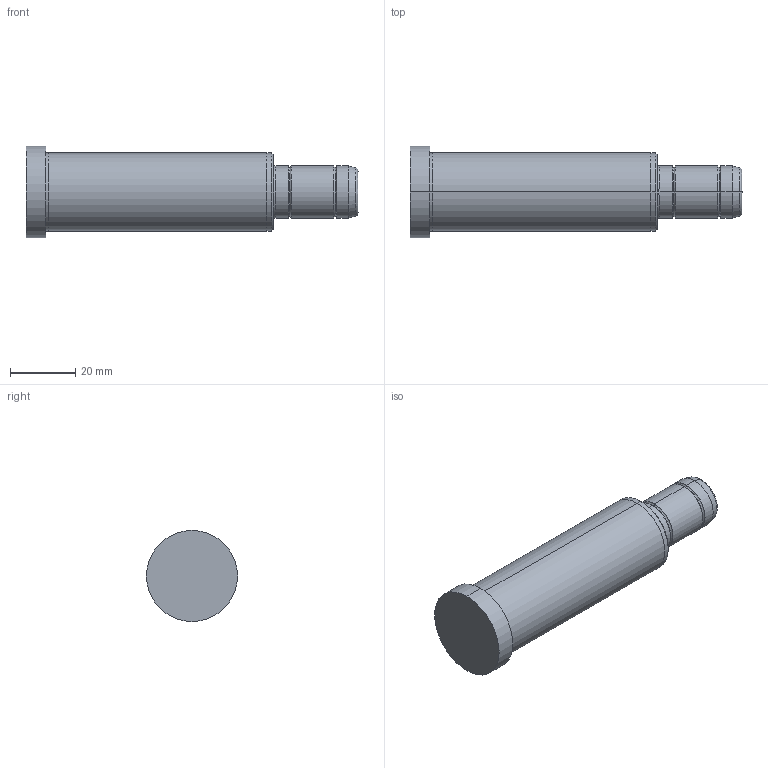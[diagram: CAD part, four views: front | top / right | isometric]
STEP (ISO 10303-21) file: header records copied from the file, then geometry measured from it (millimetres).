
FILE_DESCRIPTION( ( 'STEP AP203' ), '1' );
FILE_NAME( 'D:/Delta 3 D/D02/16/D02 - 16x76x26.step', '2003-01-04T13:07:03', ( ' ' ), ( ' ' ), 'XStep 1.0', ' ', ' ' );
FILE_SCHEMA( ( 'CONFIG_CONTROL_DESIGN' ) );
Length unit declared in the file: metre
Products named in the file (1): 1
Bounding box: 102 x 28 x 28 mm (x, y, z)
Volume: 40531.3 mm3; surface area: 8316.4 mm2
Topology: 1 solids, 1 shells, 36 faces, 70 edges, 40 vertices
Faces by surface type: bspline 18, revolution 18
Entity records: 1127 total; most frequent: CARTESIAN_POINT 417, ORIENTED_EDGE 140, DIRECTION 118, EDGE_CURVE 70, AXIS2_PLACEMENT_3D 41, EDGE_LOOP 40, VERTEX_POINT 40, CIRCLE 40
